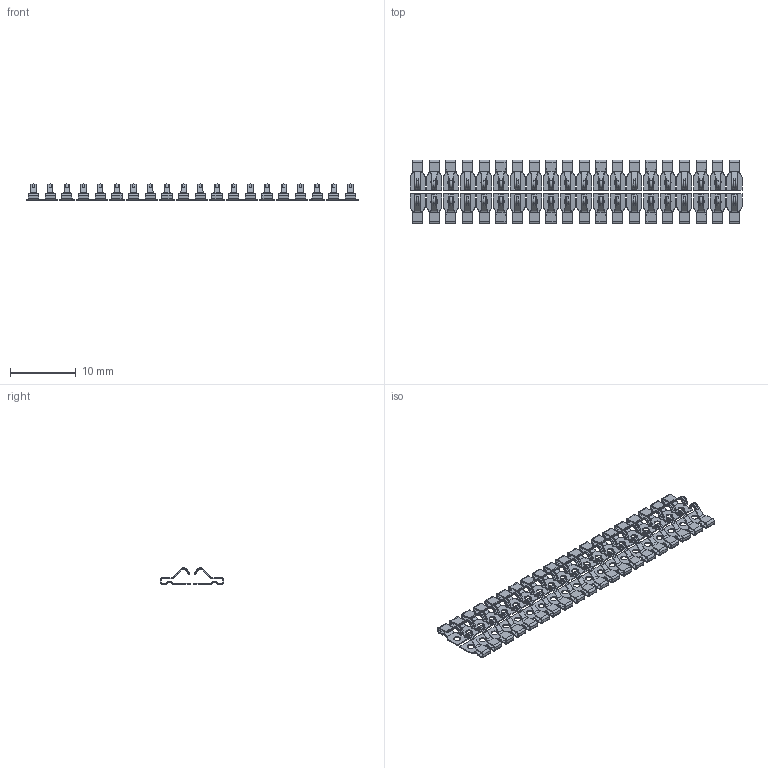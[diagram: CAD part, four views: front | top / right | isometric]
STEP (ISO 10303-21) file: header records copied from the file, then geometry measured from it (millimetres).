
FILE_DESCRIPTION(/* description */ (''),/* implementation_level */ '2;1');
FILE_NAME(/* name */ 'C:/Users/w4ilun/Documents/KiCad/beeperV2/beeper.pretty/3D/contacts.step',/* time_stamp */ '2022-09-25T22:30:29-04:00',/* author */ (''),/* organization */ (''),/* preprocessor_version */ 'ST-DEVELOPER v19',/* originating_system */ 'Autodesk Translation Framework v11.7.0.108',/* authorisation */ '');
FILE_SCHEMA (('AUTOMOTIVE_DESIGN { 1 0 10303 214 3 1 1 }'));
Products named in the file (1): s7141-45
Bounding box: 50.56 x 9.73 x 2.5 mm (x, y, z)
Volume: 89.6 mm3; surface area: 1366.6 mm2
Topology: 40 solids, 40 shells, 3400 faces, 7960 edges, 4640 vertices
Faces by surface type: plane 1840, cylinder 1000, bspline 320, torus 160, cone 80
Full cylindrical faces by diameter (mm): 1 x40
Entity records: 104165 total; most frequent: CARTESIAN_POINT 26921, DIRECTION 16362, ORIENTED_EDGE 15920, EDGE_CURVE 7960, AXIS2_PLACEMENT_3D 5721, LINE 4920, VECTOR 4920, VERTEX_POINT 4640
